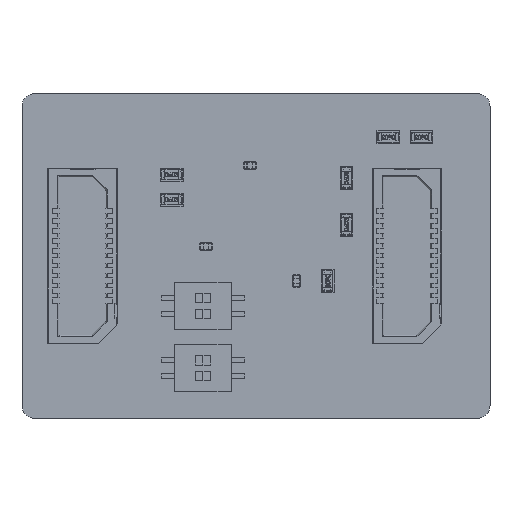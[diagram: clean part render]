
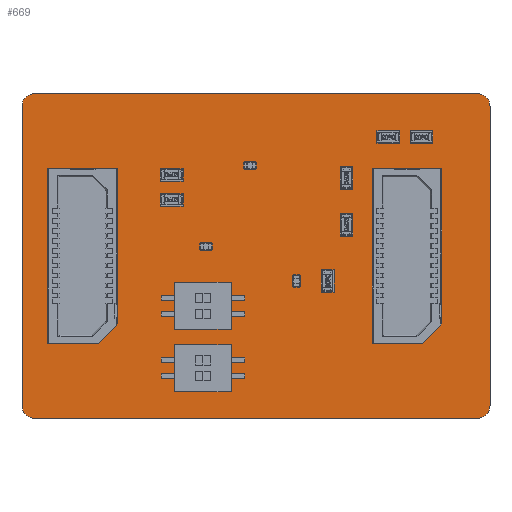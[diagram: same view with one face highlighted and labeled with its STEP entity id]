
A CAD part, top view. The second image highlights one B-rep face of the part: STEP entity #669.
In plain terms, the highlighted planar face has unit normal (0, 0, 1).
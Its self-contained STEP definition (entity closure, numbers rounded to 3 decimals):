
#116 = VERTEX_POINT('',#117);
#117 = CARTESIAN_POINT('',(0.,1.,1.6));
#123 = EDGE_CURVE('',#116,#124,#126,.T.);
#124 = VERTEX_POINT('',#125);
#125 = CARTESIAN_POINT('',(1.,0.,1.6));
#126 = CIRCLE('',#127,1.);
#127 = AXIS2_PLACEMENT_3D('',#128,#129,#130);
#128 = CARTESIAN_POINT('',(1.,1.,1.6));
#129 = DIRECTION('',(0.,0.,1.));
#130 = DIRECTION('',(-1.,0.,0.));
#156 = EDGE_CURVE('',#124,#157,#159,.T.);
#157 = VERTEX_POINT('',#158);
#158 = CARTESIAN_POINT('',(36.5,0.,1.6));
#159 = LINE('',#160,#161);
#160 = CARTESIAN_POINT('',(1.,0.,1.6));
#161 = VECTOR('',#162,1.);
#162 = DIRECTION('',(1.,0.,0.));
#187 = EDGE_CURVE('',#157,#188,#190,.T.);
#188 = VERTEX_POINT('',#189);
#189 = CARTESIAN_POINT('',(37.5,1.,1.6));
#190 = CIRCLE('',#191,1.);
#191 = AXIS2_PLACEMENT_3D('',#192,#193,#194);
#192 = CARTESIAN_POINT('',(36.5,1.,1.6));
#193 = DIRECTION('',(0.,0.,1.));
#194 = DIRECTION('',(0.,-1.,0.));
#220 = EDGE_CURVE('',#188,#221,#223,.T.);
#221 = VERTEX_POINT('',#222);
#222 = CARTESIAN_POINT('',(37.5,25.,1.6));
#223 = LINE('',#224,#225);
#224 = CARTESIAN_POINT('',(37.5,1.,1.6));
#225 = VECTOR('',#226,1.);
#226 = DIRECTION('',(0.,1.,0.));
#251 = EDGE_CURVE('',#221,#252,#254,.T.);
#252 = VERTEX_POINT('',#253);
#253 = CARTESIAN_POINT('',(36.5,26.,1.6));
#254 = CIRCLE('',#255,1.);
#255 = AXIS2_PLACEMENT_3D('',#256,#257,#258);
#256 = CARTESIAN_POINT('',(36.5,25.,1.6));
#257 = DIRECTION('',(0.,0.,1.));
#258 = DIRECTION('',(1.,0.,0.));
#284 = EDGE_CURVE('',#252,#285,#287,.T.);
#285 = VERTEX_POINT('',#286);
#286 = CARTESIAN_POINT('',(1.,26.,1.6));
#287 = LINE('',#288,#289);
#288 = CARTESIAN_POINT('',(36.5,26.,1.6));
#289 = VECTOR('',#290,1.);
#290 = DIRECTION('',(-1.,0.,0.));
#315 = EDGE_CURVE('',#285,#316,#318,.T.);
#316 = VERTEX_POINT('',#317);
#317 = CARTESIAN_POINT('',(0.,25.,1.6));
#318 = CIRCLE('',#319,1.);
#319 = AXIS2_PLACEMENT_3D('',#320,#321,#322);
#320 = CARTESIAN_POINT('',(1.,25.,1.6));
#321 = DIRECTION('',(0.,0.,1.));
#322 = DIRECTION('',(0.,1.,0.));
#348 = EDGE_CURVE('',#316,#116,#349,.T.);
#349 = LINE('',#350,#351);
#350 = CARTESIAN_POINT('',(0.,25.,1.6));
#351 = VECTOR('',#352,1.);
#352 = DIRECTION('',(0.,-1.,0.));
#372 = VERTEX_POINT('',#373);
#373 = CARTESIAN_POINT('',(4.1,7.6,1.6));
#379 = EDGE_CURVE('',#372,#372,#380,.T.);
#380 = CIRCLE('',#381,0.75);
#381 = AXIS2_PLACEMENT_3D('',#382,#383,#384);
#382 = CARTESIAN_POINT('',(3.35,7.6,1.6));
#383 = DIRECTION('',(0.,0.,1.));
#384 = DIRECTION('',(1.,0.,0.));
#405 = VERTEX_POINT('',#406);
#406 = CARTESIAN_POINT('',(6.,7.6,1.6));
#412 = EDGE_CURVE('',#405,#405,#413,.T.);
#413 = CIRCLE('',#414,0.75);
#414 = AXIS2_PLACEMENT_3D('',#415,#416,#417);
#415 = CARTESIAN_POINT('',(5.25,7.6,1.6));
#416 = DIRECTION('',(0.,0.,1.));
#417 = DIRECTION('',(1.,0.,0.));
#438 = VERTEX_POINT('',#439);
#439 = CARTESIAN_POINT('',(4.1,18.4,1.6));
#445 = EDGE_CURVE('',#438,#438,#446,.T.);
#446 = CIRCLE('',#447,0.75);
#447 = AXIS2_PLACEMENT_3D('',#448,#449,#450);
#448 = CARTESIAN_POINT('',(3.35,18.4,1.6));
#449 = DIRECTION('',(0.,0.,1.));
#450 = DIRECTION('',(1.,0.,0.));
#471 = VERTEX_POINT('',#472);
#472 = CARTESIAN_POINT('',(6.,18.4,1.6));
#478 = EDGE_CURVE('',#471,#471,#479,.T.);
#479 = CIRCLE('',#480,0.75);
#480 = AXIS2_PLACEMENT_3D('',#481,#482,#483);
#481 = CARTESIAN_POINT('',(5.25,18.4,1.6));
#482 = DIRECTION('',(0.,0.,1.));
#483 = DIRECTION('',(1.,0.,0.));
#504 = VERTEX_POINT('',#505);
#505 = CARTESIAN_POINT('',(30.1,7.6,1.6));
#511 = EDGE_CURVE('',#504,#504,#512,.T.);
#512 = CIRCLE('',#513,0.75);
#513 = AXIS2_PLACEMENT_3D('',#514,#515,#516);
#514 = CARTESIAN_POINT('',(29.35,7.6,1.6));
#515 = DIRECTION('',(0.,0.,1.));
#516 = DIRECTION('',(1.,0.,0.));
#537 = VERTEX_POINT('',#538);
#538 = CARTESIAN_POINT('',(32.,7.6,1.6));
#544 = EDGE_CURVE('',#537,#537,#545,.T.);
#545 = CIRCLE('',#546,0.75);
#546 = AXIS2_PLACEMENT_3D('',#547,#548,#549);
#547 = CARTESIAN_POINT('',(31.25,7.6,1.6));
#548 = DIRECTION('',(0.,0.,1.));
#549 = DIRECTION('',(1.,0.,0.));
#570 = VERTEX_POINT('',#571);
#571 = CARTESIAN_POINT('',(30.1,18.4,1.6));
#577 = EDGE_CURVE('',#570,#570,#578,.T.);
#578 = CIRCLE('',#579,0.75);
#579 = AXIS2_PLACEMENT_3D('',#580,#581,#582);
#580 = CARTESIAN_POINT('',(29.35,18.4,1.6));
#581 = DIRECTION('',(0.,0.,1.));
#582 = DIRECTION('',(1.,0.,0.));
#603 = VERTEX_POINT('',#604);
#604 = CARTESIAN_POINT('',(32.,18.4,1.6));
#610 = EDGE_CURVE('',#603,#603,#611,.T.);
#611 = CIRCLE('',#612,0.75);
#612 = AXIS2_PLACEMENT_3D('',#613,#614,#615);
#613 = CARTESIAN_POINT('',(31.25,18.4,1.6));
#614 = DIRECTION('',(0.,0.,1.));
#615 = DIRECTION('',(1.,0.,0.));
#669 = ADVANCED_FACE('',(#670,#680,#683,#686,#689,#692,#695,#698,#701),
  #704,.F.);
#670 = FACE_BOUND('',#671,.T.);
#671 = EDGE_LOOP('',(#672,#673,#674,#675,#676,#677,#678,#679));
#672 = ORIENTED_EDGE('',*,*,#123,.T.);
#673 = ORIENTED_EDGE('',*,*,#156,.T.);
#674 = ORIENTED_EDGE('',*,*,#187,.T.);
#675 = ORIENTED_EDGE('',*,*,#220,.T.);
#676 = ORIENTED_EDGE('',*,*,#251,.T.);
#677 = ORIENTED_EDGE('',*,*,#284,.T.);
#678 = ORIENTED_EDGE('',*,*,#315,.T.);
#679 = ORIENTED_EDGE('',*,*,#348,.T.);
#680 = FACE_BOUND('',#681,.F.);
#681 = EDGE_LOOP('',(#682));
#682 = ORIENTED_EDGE('',*,*,#379,.T.);
#683 = FACE_BOUND('',#684,.F.);
#684 = EDGE_LOOP('',(#685));
#685 = ORIENTED_EDGE('',*,*,#412,.T.);
#686 = FACE_BOUND('',#687,.F.);
#687 = EDGE_LOOP('',(#688));
#688 = ORIENTED_EDGE('',*,*,#445,.T.);
#689 = FACE_BOUND('',#690,.F.);
#690 = EDGE_LOOP('',(#691));
#691 = ORIENTED_EDGE('',*,*,#478,.T.);
#692 = FACE_BOUND('',#693,.F.);
#693 = EDGE_LOOP('',(#694));
#694 = ORIENTED_EDGE('',*,*,#511,.T.);
#695 = FACE_BOUND('',#696,.F.);
#696 = EDGE_LOOP('',(#697));
#697 = ORIENTED_EDGE('',*,*,#544,.T.);
#698 = FACE_BOUND('',#699,.F.);
#699 = EDGE_LOOP('',(#700));
#700 = ORIENTED_EDGE('',*,*,#577,.T.);
#701 = FACE_BOUND('',#702,.F.);
#702 = EDGE_LOOP('',(#703));
#703 = ORIENTED_EDGE('',*,*,#610,.T.);
#704 = PLANE('',#705);
#705 = AXIS2_PLACEMENT_3D('',#706,#707,#708);
#706 = CARTESIAN_POINT('',(0.,1.,1.6));
#707 = DIRECTION('',(0.,0.,-1.));
#708 = DIRECTION('',(-1.,0.,0.));
